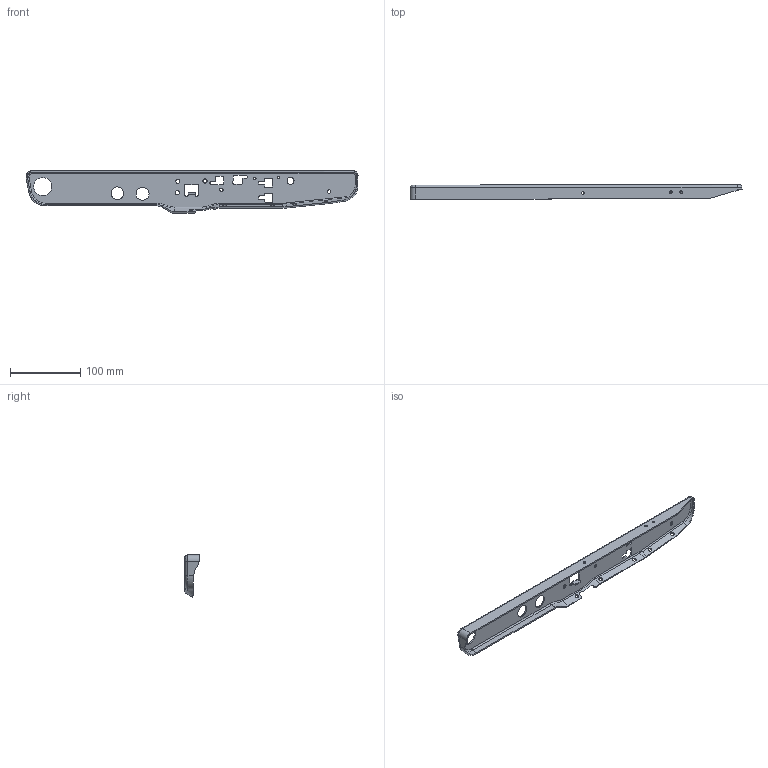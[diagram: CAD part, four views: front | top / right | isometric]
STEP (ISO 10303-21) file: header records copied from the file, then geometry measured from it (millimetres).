
FILE_DESCRIPTION(('CATIA V5 STEP Exchange'),'2;1');
FILE_NAME('C:\Users\nobody\Desktop\SQX3000-6805319_F.stp','2024-03-05T02:08:34+00:00',('none'),('none'),'CATIA Version 5 Release 20 GA (IN-10)','CATIA V5 STEP AP203 Edition 2','none');
FILE_SCHEMA(('AP203_CONFIGURATION_CONTROLLED_3D_DESIGN_OF_MECHANICAL_PARTS_AND_ASSEMBLIES_MIM_LF { 1 0 10303 403 2 1 2}'));
Length unit declared in the file: millimetre
Products named in the file (1): SQX3000-6805319
Bounding box: 472.37 x 20.48 x 60.19 mm (x, y, z)
Volume: 65644.4 mm3; surface area: 69289.1 mm2
Topology: 1 solids, 1 shells, 218 faces, 584 edges, 368 vertices
Faces by surface type: cylinder 75, bspline 69, plane 54, extrusion 20
Entity records: 10985 total; most frequent: CARTESIAN_POINT 6195, ORIENTED_EDGE 1168, DIRECTION 597, EDGE_CURVE 584, VERTEX_POINT 368, B_SPLINE_CURVE_WITH_KNOTS 271, EDGE_LOOP 266, VECTOR 252
